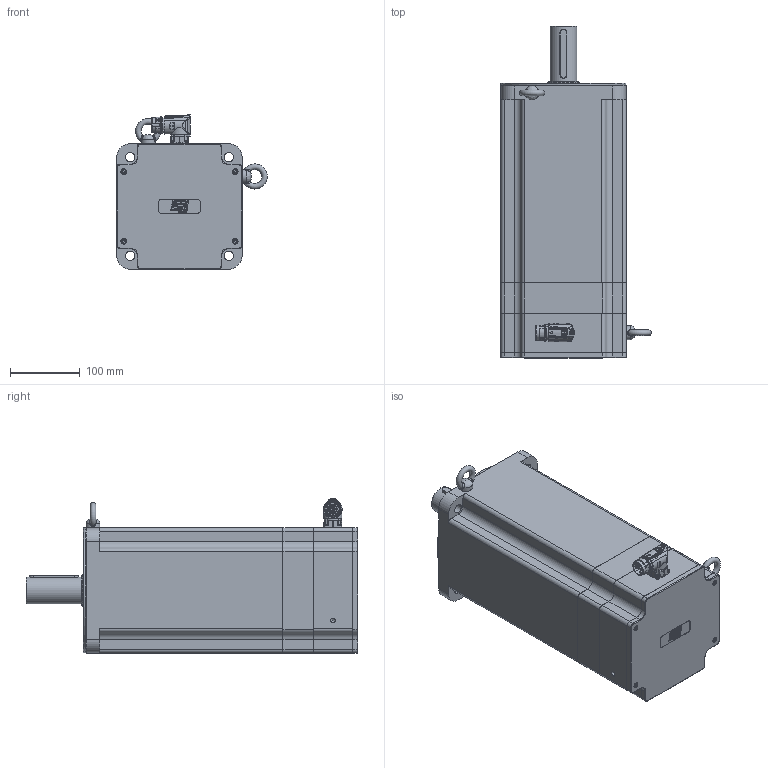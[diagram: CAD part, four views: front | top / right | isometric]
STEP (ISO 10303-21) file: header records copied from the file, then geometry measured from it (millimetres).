
FILE_DESCRIPTION(/* description */ ('Unknown'),/* implementation_level */ '2;1');
FILE_NAME(/* name */ 'TC4-180.7F.X X.X.3.XX.1.X.C21 Q0B807',/* time_stamp */ '2026-03-10T11:14:26+01:00',/* author */ ('Unknown'),/* organization */ ('Unknown'),/* preprocessor_version */ 'ST-DEVELOPER v19.4',/* originating_system */ 'Solid Edge',/* authorisation */ 'Unknown');
FILE_SCHEMA (('AUTOMOTIVE_DESIGN {1 0 10303 214 3 1 1}'));
Products named in the file (15): Q0B807 7F FRENO VUOTO; 005256003057; 003103040231; 003155002233; Coperchio campana TC4-180; 005113001040; 003003200016; 005119001104; 005911000185; 005911000479; 003120003175; 005321000010; 005911000180; 003251040631; 007117000456
Assembly tree (28 placements, depth 2):
  Q0B807 7F FRENO VUOTO
    005256003057
    003103040231
    003155002233
    Coperchio campana TC4-180
    005113001040
    003003200016
    005119001104
    005911000185  x4
    005911000479  x8
    003120003175
    005321000010  x2
    005911000180  x4
    003251040631
    007117000456
Bounding box: 215.97 x 476 x 221.5 mm (x, y, z)
Volume: 4634987.7 mm3; surface area: 989749.2 mm2
Topology: 29 solids, 55 shells, 2096 faces, 5598 edges, 3647 vertices
Faces by surface type: plane 898, cylinder 560, bspline 247, cone 226, torus 129, sphere 36
Full cylindrical faces by diameter (mm): 1 x4, 1.4 x4, 2 x4, 2.013 x8, 2.5 x4, 2.8 x4, 3 x8, 3.242 x12, 4 x5, 4.134 x16, 4.2 x8, 4.5 x9, 4.7 x4, 4.917 x6, 5 x8, 5.5 x9, 5.8 x1, 5.9 x1, 6.647 x14, 6.8 x1, 7 x6, 8 x8, 9 x4, 10 x5, 10.106 x2, 14 x4, 17.4 x1, 19.9 x1, 20 x3, 21.15 x2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
Entity records: 74939 total; most frequent: CARTESIAN_POINT 19497, ORIENTED_EDGE 8958, DIRECTION 8938, EDGE_CURVE 4687, AXIS2_PLACEMENT_3D 3383, VERTEX_POINT 3274, FACE_BOUND 2468, EDGE_LOOP 2439
